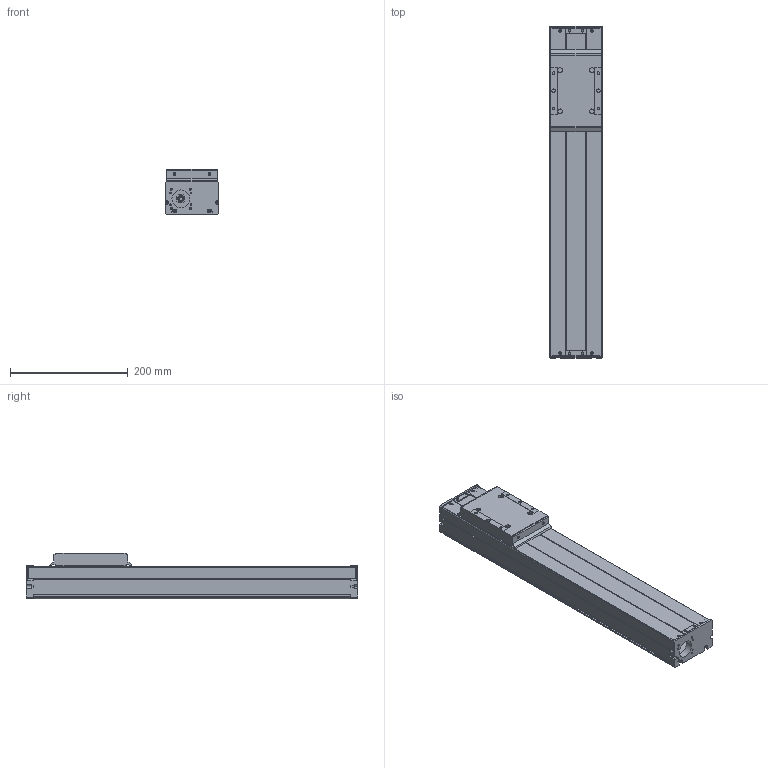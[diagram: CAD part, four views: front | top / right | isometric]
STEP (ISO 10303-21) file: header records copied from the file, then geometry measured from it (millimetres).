
FILE_DESCRIPTION (( 'STEP AP214' ), '1' );
FILE_NAME ('HZMotion TKS90-300A1F0.STEP', '2021-09-15T10:33:26', ( 'AutoBVT' ), ( 'Microsoft' ), 'SwSTEP 2.0', 'SolidWorks 2020', '' );
FILE_SCHEMA (( 'AUTOMOTIVE_DESIGN' ));
Length unit declared in the file: millimetre
Products named in the file (3): A1F0-300-1; 300-2; HZMotion TKS90-300A1F0
Assembly tree (2 placements, depth 2):
  HZMotion TKS90-300A1F0
    300-2
    A1F0-300-1
Bounding box: 90 x 564 x 78 mm (x, y, z)
Volume: 1107764.4 mm3; surface area: 405652.3 mm2
Topology: 2 solids, 6 shells, 515 faces, 1337 edges, 862 vertices
Faces by surface type: plane 268, cylinder 211, cone 32, torus 4
Entity records: 15839 total; most frequent: DIRECTION 2807, CARTESIAN_POINT 2695, ORIENTED_EDGE 2626, EDGE_CURVE 1313, AXIS2_PLACEMENT_3D 974, VERTEX_POINT 862, LINE 859, VECTOR 859
